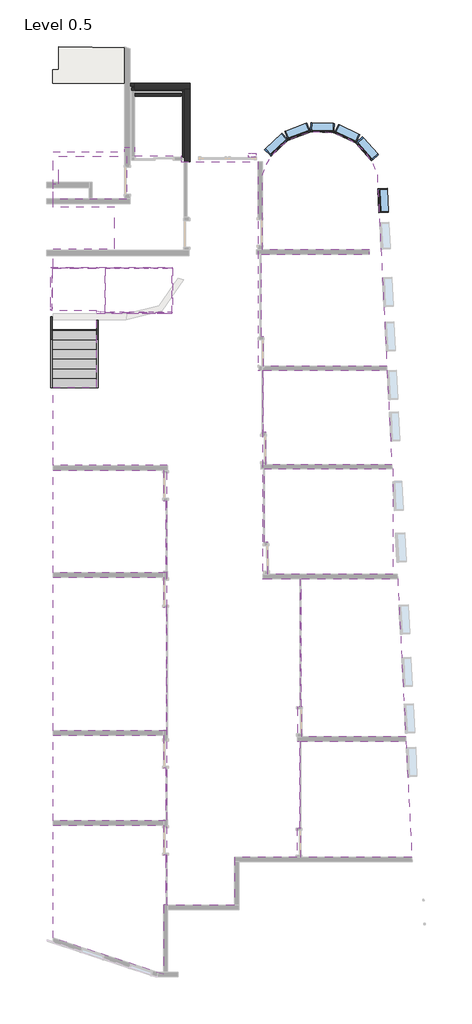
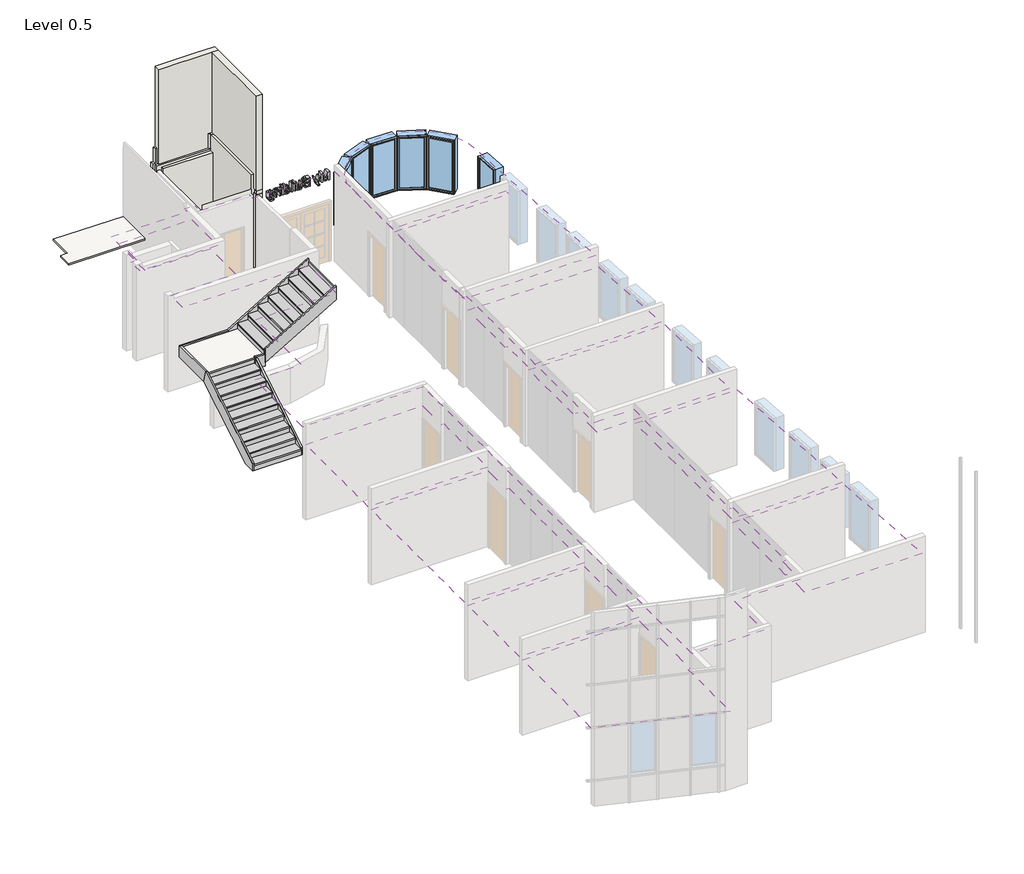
# One storey, part 3 of 3: 12 coverings, 7 members, 7 walls, 6 windows, 2 stair flights, 1 proxy, 1 slab.
"""IFC4 building model written with IfcOpenShell, lengths in millimetres."""

from ifc_helpers import new_model, si_unit, point, frame, frame_2d, origin, place, context, project, spatial, polyline, circle_curve, trimmed, segment, composite_curve, outline, extrude, faceted_brep, transform, mapped, element, save
from components import non_monolithic_landing_83515922, stair_flight_50mm_tread_13mm_riser_608741db, stair_flight_50mm_tread_13mm_riser_33096dec, m_fixed_0815_x_1830mm_2_6a11e188

model = new_model("IFC4")

# Units and contexts
model_context = context("Model", 3, world=origin())
ifc_project = project(units=[si_unit("LENGTHUNIT", "METRE", prefix="MILLI")], contexts=[model_context])

# Site, building, storey
site = spatial("IfcSite", under=ifc_project)
building = spatial("IfcBuilding", under=site)
storey = spatial("IfcBuildingStorey", under=building, Name="Level 0.5", Elevation=1200.0)

# Proxy
placement = place(None, origin())
element("IfcBuildingElementProxy", 1, Name="600mm Arial", ObjectType="600mm Arial", at=placement, inside=storey, context=model_context, shape_type="SweptSolid", body=[
    extrude(outline(polyline([(3936.3821281, 6936.0954864), (4220.4063705, 6936.0954864), (4220.4063705, 6875.0053112), (4020.2164321, 6816.8968359), (3978.4032929, 6805.1780622), (4023.6835249, 6792.4885025), (4220.4063705, 6735.3508131), (4220.4063705, 6674.2606379), (3936.3821281, 6674.2606379), (3936.3821281, 6709.7636682), (4184.9033402, 6709.7636682), (3936.3821281, 6781.1164381), (3936.3821281, 6829.2396862), (4184.9033402, 6900.5924561), (3936.3821281, 6900.5924561), (3936.3821281, 6936.0954864)])), frame((0.0, 10131.7405588, 0.0), z_axis=(0.0, 1.0, 0.0), x_axis=(0.0, 0.0, 1.0)), (0.0, 0.0, 1.0), 150.0),
    extrude(outline(polyline([(3856.5003099, 6616.5682137), (3890.685845, 6621.0060925), (3887.5654614, 6602.9772099), (3891.4832763, 6586.1271389), (3902.4046186, 6575.7952023), (3928.5464984, 6566.0873425), (3937.1448885, 6563.3136682), (4144.9624311, 6638.7576076), (4144.9624311, 6601.3130054), (4029.1615315, 6561.3027544), (3982.8411717, 6547.3650413), (4023.7528667, 6533.4273283), (4144.9624311, 6492.3076076), (4144.9624311, 6455.1403728), (3931.3895145, 6527.7412961), (3885.0691546, 6546.6022809), (3870.2820038, 6556.2581344), (3860.0367446, 6567.1968122), (3854.0560095, 6579.9037073), (3852.0624311, 6594.8642128), (3856.5003099, 6616.5682137)])), frame((0.0, 10131.7405588, 0.0), z_axis=(0.0, 1.0, 0.0), x_axis=(0.0, 0.0, 1.0)), (0.0, 0.0, 1.0), 150.0),
    extrude(outline(polyline([(3936.3821281, 6310.3545773), (4220.4063705, 6310.3545773), (4220.4063705, 6201.9732563), (4218.3174471, 6172.1649259), (4212.0506769, 6148.8920655), (4201.4500406, 6131.053873), (4186.3595192, 6117.5495466), (4168.608004, 6109.0465015), (4150.0243866, 6106.2121531), (4132.9229514, 6108.5957794), (4116.8443085, 6115.7466583), (4102.7765795, 6127.7167962), (4091.7078857, 6144.5581995), (4081.2025945, 6124.4403935), (4065.2192967, 6109.5752331), (4044.8154555, 6100.3961049), (4021.0485344, 6097.3363955), (4001.2427667, 6099.4253189), (3982.8758426, 6105.6920892), (3967.2565895, 6115.044572), (3955.693835, 6126.3906332), (3947.3208059, 6140.2850076), (3941.270729, 6157.2824301), (3936.3821281, 6202.8053586), (3936.3821281, 6310.3545773)]), holes=[polyline([(4105.021522, 6274.851547), (4105.021522, 6210.0169116), (4108.0725637, 6172.1562582), (4113.333877, 6158.903296), (4121.2128454, 6149.3774585), (4131.5881206, 6143.6307522), (4144.3383544, 6141.7151834), (4156.7158757, 6143.5007362), (4167.4985344, 6148.8573946), (4175.9149021, 6157.542462), (4181.1935509, 6169.3132421), (4184.9033402, 6214.9401834), (4184.9033402, 6274.851547), (4105.021522, 6274.851547)]), polyline([(3971.8851584, 6274.851547), (3971.8851584, 6202.0425982), (3973.2719955, 6175.6926929), (3981.0036125, 6153.3992861), (3996.7788847, 6138.6294708), (4007.9255881, 6134.2869371), (4020.7018251, 6132.8394258), (4035.5409823, 6134.5383013), (4048.2998838, 6139.6349277), (4058.2764433, 6148.5366885), (4064.7685746, 6161.650967), (4069.5184917, 6205.509691), (4069.5184917, 6274.851547), (3971.8851584, 6274.851547)])]), frame((0.0, 10131.7405588, 0.0), z_axis=(0.0, 1.0, 0.0), x_axis=(0.0, 0.0, 1.0)), (0.0, 0.0, 1.0), 150.0),
    extrude(outline(polyline([(3936.3821281, 5919.821244), (3972.2318677, 5919.821244), (3954.6060346, 5932.6668228), (3942.0161539, 5947.6273283), (3934.4622255, 5964.7027603), (3931.9442493, 5983.893119), (3933.7124666, 6001.1852444), (3939.0171186, 6017.2812227), (3946.9914321, 6030.7855492), (3956.7686338, 6040.3027189), (3982.9105135, 6050.877352), (4015.917237, 6052.9576076), (4144.9624311, 6052.9576076), (4144.9624311, 6017.4545773), (4032.6286243, 6017.4545773), (3996.4321754, 6015.3049798), (3984.3580248, 6010.1303438), (3975.1788966, 6001.2632539), (3969.3801839, 5989.293116), (3967.4472796, 5974.8093359), (3969.4235225, 5959.4934534), (3975.3522512, 5945.1656924), (3984.6873986, 5933.3515737), (3996.8828975, 5925.5766181), (4013.5856171, 5921.2600875), (4036.4424264, 5919.821244), (4144.9624311, 5919.821244), (4144.9624311, 5884.3182137), (3936.3821281, 5884.3182137), (3936.3821281, 5919.821244)])), frame((0.0, 10131.7405588, 0.0), z_axis=(0.0, 1.0, 0.0), x_axis=(0.0, 0.0, 1.0)), (0.0, 0.0, 1.0), 150.0),
    extrude(outline(polyline([(5799.9985167, 10281.7405588), (5835.501547, 10281.7405588), (5835.501547, 10131.7405588), (5799.9985167, 10131.7405588), (5799.9985167, 10281.7405588)])), frame((0.0, 0.0, 4184.9033402), z_axis=(0.0, 0.0, 1.0), x_axis=(1.0, 0.0, 0.0)), (0.0, 0.0, 1.0), 35.5030303),
    extrude(outline(polyline([(5799.9985167, 10281.7405588), (5835.501547, 10281.7405588), (5835.501547, 10131.7405588), (5799.9985167, 10131.7405588), (5799.9985167, 10281.7405588)])), frame((0.0, 0.0, 3936.3821281), z_axis=(0.0, 0.0, 1.0), x_axis=(1.0, 0.0, 0.0)), (0.0, 0.0, 1.0), 208.580303),
    extrude(outline(polyline([(5711.240941, 10281.7405588), (5746.7439713, 10281.7405588), (5746.7439713, 10131.7405588), (5711.240941, 10131.7405588), (5711.240941, 10281.7405588)])), frame((0.0, 0.0, 3936.3821281), z_axis=(0.0, 0.0, 1.0), x_axis=(1.0, 0.0, 0.0)), (0.0, 0.0, 1.0), 284.0242424),
    extrude(outline(polyline([(3936.3821281, 5529.2879107), (3969.8742446, 5529.2879107), (3953.2798716, 5539.9102162), (3941.4267481, 5552.7774644), (3934.314874, 5567.8896552), (3931.9442493, 5585.2467885), (3935.3766712, 5608.1989429), (3945.6739368, 5629.2095253), (3962.1166244, 5646.9957113), (3983.9853123, 5660.2746768), (4010.3958917, 5668.5436931), (4040.464254, 5671.3000319), (4070.1599039, 5668.7603864), (4096.9778667, 5661.14145), (4119.3926217, 5648.4518903), (4135.878648, 5630.7003752), (4146.0198944, 5609.230403), (4149.4003099, 5585.3854722), (4146.9820127, 5568.0153373), (4139.727121, 5552.6561162), (4128.6064208, 5539.6371827), (4114.5906982, 5529.2879107), (4220.4063705, 5529.2879107), (4220.4063705, 5493.7848804), (3936.3821281, 5493.7848804), (3936.3821281, 5529.2879107)]), holes=[polyline([(4040.6029378, 5635.7970016), (4008.4889907, 5631.7925094), (3985.6495168, 5619.7790328), (3971.9978389, 5602.3222206), (3967.4472796, 5581.9877213), (3971.7898134, 5561.6618897), (3984.8174146, 5544.6471318), (4006.7727797, 5533.1277159), (4037.8986054, 5529.2879107), (4071.9281212, 5533.1970578), (4095.5216878, 5544.9244992), (4109.3033817, 5562.3726437), (4113.8972796, 5583.4439003), (4109.485404, 5603.9864251), (4096.2497772, 5620.8191607), (4073.5143162, 5632.0525413), (4040.6029378, 5635.7970016)])]), frame((0.0, 10131.7405588, 0.0), z_axis=(0.0, 1.0, 0.0), x_axis=(0.0, 0.0, 1.0)), (0.0, 0.0, 1.0), 150.0),
    extrude(outline(polyline([(5405.0273046, 10281.7405588), (5440.5303349, 10281.7405588), (5440.5303349, 10131.7405588), (5405.0273046, 10131.7405588), (5405.0273046, 10281.7405588)])), frame((0.0, 0.0, 3936.3821281), z_axis=(0.0, 0.0, 1.0), x_axis=(1.0, 0.0, 0.0)), (0.0, 0.0, 1.0), 208.580303),
    extrude(outline(polyline([(5405.0273046, 10281.7405588), (5440.5303349, 10281.7405588), (5440.5303349, 10131.7405588), (5405.0273046, 10131.7405588), (5405.0273046, 10281.7405588)])), frame((0.0, 0.0, 4184.9033402), z_axis=(0.0, 0.0, 1.0), x_axis=(1.0, 0.0, 0.0)), (0.0, 0.0, 1.0), 35.5030303),
    extrude(outline(polyline([(3936.3821281, 5351.7727592), (4144.9624311, 5351.7727592), (4144.9624311, 5316.2697288), (4115.8388516, 5316.2697288), (4130.5219896, 5303.9355462), (4141.0099453, 5289.1223922), (4147.3027188, 5271.8302668), (4149.4003099, 5252.0591701), (4147.7101022, 5234.5590192), (4142.639479, 5218.5323827), (4134.8211847, 5205.16674), (4124.8879638, 5195.6495702), (4098.780755, 5185.0055953), (4064.4565362, 5183.1333652), (3936.3821281, 5183.1333652), (3936.3821281, 5218.6363955), (4059.6719482, 5218.6363955), (4091.083809, 5222.727565), (4100.4362918, 5228.387594), (4107.6911835, 5237.185342), (4112.3457556, 5248.4620614), (4113.8972796, 5261.5590044), (4110.4128513, 5282.3528935), (4099.9595665, 5300.0784055), (4091.4261844, 5307.1621094), (4079.763751, 5312.221898), (4047.0517304, 5316.2697288), (3936.3821281, 5316.2697288), (3936.3821281, 5351.7727592)])), frame((0.0, 10131.7405588, 0.0), z_axis=(0.0, 1.0, 0.0), x_axis=(0.0, 0.0, 1.0)), (0.0, 0.0, 1.0), 150.0),
    extrude(outline(polyline([(3918.6306129, 5143.1924561), (3914.1927342, 5107.6894258), (3903.0980372, 5103.771611), (3895.470433, 5096.1786777), (3889.5417043, 5081.2528432), (3887.5654614, 5061.7157753), (3889.8017363, 5040.8785475), (3896.5105609, 5025.3806427), (3907.2585486, 5014.632655), (3921.6123128, 5008.0451787), (3963.0094008, 5005.6182137), (3951.359969, 5017.4323324), (3943.0389463, 5030.6159528), (3938.0463326, 5045.1690748), (3936.3821281, 5061.0916985), (3938.3193662, 5080.5572577), (3944.1310805, 5097.6955308), (3953.817271, 5112.5065179), (3967.3779378, 5124.9902189), (3983.6472707, 5134.8952697), (4001.45946, 5141.9703059), (4041.7124075, 5147.6303349), (4070.3765972, 5145.0906894), (4096.7351702, 5137.471753), (4119.0719156, 5125.0422253), (4135.6706224, 5108.070806), (4145.967888, 5087.1382332), (4149.4003099, 5062.8252449), (4147.4587379, 5046.2222043), (4141.634022, 5031.1533522), (4131.9261622, 5017.6186887), (4118.3351584, 5005.6182137), (4144.9624311, 5005.6182137), (4144.9624311, 4970.1151834), (3964.8816309, 4970.1151834), (3923.3025205, 4972.5421484), (3895.9211551, 4979.8230432), (3877.7622565, 4992.3652515), (3863.8505467, 5010.5761564), (3855.00946, 5034.0570424), (3852.0624311, 5062.4091938), (3856.2142748, 5095.4419205), (3868.6698057, 5121.4537842), (3878.0201216, 5131.2504883), (3889.4636947, 5138.1391684), (3903.0005252, 5142.1198243), (3918.6306129, 5143.1924561)]), holes=[polyline([(4044.1393724, 5112.1273046), (4011.5747033, 5108.3395057), (3989.1859515, 5096.9761091), (3976.2103567, 5079.8920093), (3971.8851584, 5058.942101), (3976.1843535, 5038.1482119), (3989.0819387, 5020.9774348), (4011.1846553, 5009.458019), (4043.0992446, 5005.6182137), (4073.8783609, 5009.5706995), (4096.0417517, 5021.4281569), (4109.4333976, 5038.8502982), (4113.8972796, 5059.4968359), (4109.5027395, 5079.770661), (4096.3191191, 5096.7680835), (4074.4851022, 5108.2874993), (4044.1393724, 5112.1273046)])]), frame((0.0, 10131.7405588, 0.0), z_axis=(0.0, 1.0, 0.0), x_axis=(0.0, 0.0, 1.0)), (0.0, 0.0, 1.0), 150.0),
])

# Coverings
element("IfcCovering", 2, ObjectType="600 x 600mm Grid", at=placement, inside=storey, context=model_context, shape_type="SweptSolid", body=[
    extrude(outline(polyline([(7197.8570765, 2807.3506855), (11447.9270018, 2807.3506855), (11612.8107888, -430.9502585), (7272.8570765, -443.3366135), (7272.8570765, 681.4490289), (7197.8570765, 681.4490289), (7197.8570765, 1802.2893787), (7197.8570765, 2807.3506855)])), frame((0.0, 0.0, 3800.0), z_axis=(0.0, 0.0, 1.0), x_axis=(1.0, 0.0, 0.0)), (0.0, 0.0, 1.0), 52.0),
])
element("IfcCovering", 3, ObjectType="600 x 600mm Grid", at=placement, inside=storey, context=model_context, shape_type="SweptSolid", body=[
    extrude(outline(composite_curve([segment(polyline([(7150.5392732, 6948.450989), (7150.5392732, 9509.6119752)]), True, "CONTINUOUS"), segment(trimmed(circle_curve(frame_2d((9131.2105116, 8980.9897456)), 2050.0000039), [point((7150.5392732, 9509.6119752))], [point((11105.4759403, 9533.0549888))], False, "CARTESIAN"), True, "CONTINUOUS"), segment(polyline([(11105.4759403, 9533.0549888), (11440.2894881, 2957.3506855), (7185.1048556, 2957.3506855), (7185.1048556, 3970.7828627), (7130.5392732, 3970.7828627), (7130.5392732, 5170.7828627), (7130.5392732, 6170.7828627), (7130.5392732, 6798.4082432), (10838.0678893, 6806.2697987), (10837.7498255, 6956.2694615), (7150.5392732, 6948.450989)]), True, "CONTINUOUS")], self_intersect=False)), frame((0.0, 0.0, 4100.0), z_axis=(0.0, 0.0, 1.0), x_axis=(1.0, 0.0, 0.0)), (0.0, 0.0, 1.0), 52.0),
])
element("IfcCovering", 4, ObjectType="600 x 600mm Grid", at=placement, inside=storey, context=model_context, shape_type="SweptSolid", body=[
    extrude(outline(polyline([(-50.0000039, -4153.7038617), (-50.0000039, -617.1675364), (3749.6376114, -617.1675364), (3749.6376114, -1677.1675364), (3824.6376114, -1677.1675364), (3824.6376114, -2977.1675364), (3824.6376114, -4153.7038617), (-50.0000039, -4153.7038617)])), frame((0.0, 0.0, 3800.0), z_axis=(0.0, 0.0, 1.0), x_axis=(1.0, 0.0, 0.0)), (0.0, 0.0, 1.0), 52.0),
])
element("IfcCovering", 5, ObjectType="600 x 600mm Grid", at=placement, inside=storey, context=model_context, shape_type="SweptSolid", body=[
    extrude(outline(polyline([(-50.0000039, -9587.5773389), (-50.0000039, -4303.7038617), (3749.6376114, -4303.7038617), (3749.6376114, -5337.1675364), (3834.6376114, -5337.1675364), (3834.6376114, -6537.1675364), (3834.6376114, -7737.1675364), (3834.6376114, -8940.5298497), (3834.6376114, -9587.5773389), (-50.0000039, -9587.5773389)])), frame((0.0, 0.0, 3800.0), z_axis=(0.0, 0.0, 1.0), x_axis=(1.0, 0.0, 0.0)), (0.0, 0.0, 1.0), 52.0),
])
element("IfcCovering", 6, ObjectType="600 x 600mm Grid", at=placement, inside=storey, context=model_context, shape_type="SweptSolid", body=[
    extrude(outline(polyline([(-50.0000039, -12673.8791407), (-50.0000039, -9737.5773389), (3749.6376114, -9737.5773389), (3749.6376114, -10857.1675364), (3824.6376114, -10857.1675364), (3824.6376114, -11957.1675364), (3824.6376114, -12673.8791407), (-50.0000039, -12673.8791407)])), frame((0.0, 0.0, 3800.0), z_axis=(0.0, 0.0, 1.0), x_axis=(1.0, 0.0, 0.0)), (0.0, 0.0, 1.0), 52.0),
])
element("IfcCovering", 7, ObjectType="600 x 600mm Grid", at=placement, inside=storey, context=model_context, shape_type="SweptSolid", body=[
    extrude(outline(polyline([(3749.6376114, -17955.9098314), (-50.0000039, -16704.4650439), (-50.0000039, -12823.8791407), (3749.6376114, -12823.8791407), (3749.6376114, -13837.1675364), (3824.6376114, -13837.1675364), (3824.6376114, -14737.1675364), (3824.6376114, -15557.1675364), (3749.6376114, -15557.1675364), (3749.6376114, -17955.9098314)])), frame((0.0, 0.0, 3800.0), z_axis=(0.0, 0.0, 1.0), x_axis=(1.0, 0.0, 0.0)), (0.0, 0.0, 1.0), 52.0),
])
element("IfcCovering", 8, ObjectType="600 x 600mm Grid", at=placement, inside=storey, context=model_context, shape_type="SweptSolid", body=[
    extrude(outline(polyline([(12096.9851954, -9940.0867626), (12300.5219419, -13937.5279318), (8489.4667664, -13937.5279318), (8489.4667664, -12940.0867626), (8439.9667664, -12940.0867626), (8439.9667664, -11440.0867626), (8439.9667664, -9940.0867626), (12096.9851954, -9940.0867626)])), frame((0.0, 0.0, 3800.0), z_axis=(0.0, 0.0, 1.0), x_axis=(1.0, 0.0, 0.0)), (0.0, 0.0, 1.0), 52.0),
])
element("IfcCovering", 9, ObjectType="600 x 600mm Grid", at=placement, inside=storey, context=model_context, shape_type="SweptSolid", body=[
    extrude(outline(polyline([(8499.9667664, -4355.3047697), (11812.6261996, -4355.3047697), (12089.3476816, -9790.0867626), (8510.4667664, -9790.0867626), (8510.4667664, -8765.0867626), (8499.9667664, -8765.0867626), (8499.9667664, -6665.0867626), (8499.9667664, -5065.0867626), (8499.9667664, -4355.3047697)])), frame((0.0, 0.0, 3800.0), z_axis=(0.0, 0.0, 1.0), x_axis=(1.0, 0.0, 0.0)), (0.0, 0.0, 1.0), 52.0),
])
element("IfcCovering", 10, ObjectType="600 x 600mm Grid", at=placement, inside=storey, context=model_context, shape_type="SweptSolid", body=[
    extrude(outline(polyline([(7220.447224, -580.9290748), (11652.553, -580.9290748), (11652.553, -4207.2928434), (7352.553, -4207.2928434), (7352.553, -3107.2928434), (7220.447224, -3107.2928434), (7220.447224, -580.9290748)])), frame((0.0, 0.0, 3800.0), z_axis=(0.0, 0.0, 1.0), x_axis=(1.0, 0.0, 0.0)), (0.0, 0.0, 1.0), 52.0),
])
element("IfcCovering", 11, ObjectType="600 x 600mm Grid", at=placement, inside=storey, context=model_context, shape_type="SweptSolid", body=[
    extrude(outline(polyline([(3899.6376114, -15557.1675364), (3874.1376114, -15557.1675364), (3874.1376114, -457.1675364), (-25.8623886, -457.1675364), (-50.0000039, -457.1675364), (-50.0000039, 2226.9438392), (1447.7916679, 2226.9438392), (1447.7916679, 4776.9438392), (4055.0000043, 4776.9438392), (4055.0000043, 6311.9438364), (-44.9999957, 6311.9438364), (-44.9999957, 6991.9438364), (2075.0000043, 6991.9438364), (2075.0000043, 8411.9438364), (-50.0000039, 8411.9438364), (-50.0000039, 10328.8506586), (2419.6668671, 10328.8506586), (2419.6668671, 10481.5722364), (2749.6769958, 10481.5722364), (2749.6769958, 10181.5722364), (4349.6769958, 10181.5722364), (4349.6769958, 10031.9436225), (4349.6769958, 9981.7405588), (7000.5392732, 9981.7405588), (7000.5392732, 2807.3506855), (7158.4858397, 2807.3506855), (7158.4858397, -4355.3047697), (8450.4667664, -4355.3047697), (8450.4667664, -8765.0867626), (8360.4667664, -8765.0867626), (8360.4667664, -9940.0867626), (8450.4667664, -9940.0867626), (8450.4667664, -12935.3047697), (8339.4667664, -12935.3047697), (8339.4667664, -13937.5279318), (6199.6376114, -13937.5279318), (6199.6376114, -15587.5279318), (3899.6376114, -15587.5279318), (3899.6376114, -15557.1675364)])), frame((0.0, 0.0, 4300.0), z_axis=(0.0, 0.0, 1.0), x_axis=(1.0, 0.0, 0.0)), (0.0, 0.0, 1.0), 52.0),
])
element("IfcCovering", 12, ObjectType="600 x 600mm Grid", at=placement, inside=storey, context=model_context, shape_type="SweptSolid", body=[
    extrude(outline(polyline([(2481.8607589, 10179.4957281), (2481.8607589, 8696.8748746), (-50.0421304, 8696.8748746), (-50.0421304, 9219.4957281), (149.9709975, 9219.4957281), (149.9709975, 10179.4957281), (2481.8607589, 10179.4957281)])), frame((0.0, 0.0, 4100.0), z_axis=(0.0, 0.0, 1.0), x_axis=(1.0, 0.0, 0.0)), (0.0, 0.0, 1.0), 52.0),
])
element("IfcCovering", 13, ObjectType="600 x 600mm Grid", at=placement, inside=storey, context=model_context, shape_type="SweptSolid", body=[
    extrude(outline(polyline([(2454.9743495, 12688.8107611), (-60.0421304, 12688.8107611), (-60.0421304, 13143.419171), (149.9709975, 13143.419171), (149.9709975, 13943.419171), (2454.9743495, 13908.8107611), (2454.9743495, 12688.8107611)])), frame((0.0, 0.0, 1900.0), z_axis=(0.0, 0.0, 1.0), x_axis=(1.0, 0.0, 0.0)), (0.0, 0.0, 1.0), 52.0),
])

# Members
element("IfcMember", 14, ObjectType="Stringer - 50mm Width", at=placement, inside=storey, context=model_context, shape_type="SweptSolid", body=[
    extrude(outline(polyline([(2211.9438392, 1200.0), (2211.9438392, 1432.6923959), (4871.3667661, 2997.0588235), (4980.290083, 2597.0588235), (2605.290083, 1200.0), (2211.9438392, 1200.0)])), frame((-129.9999959, 0.0, 0.0), z_axis=(1.0, 0.0, 0.0), x_axis=(0.0, 1.0, 0.0)), (0.0, 0.0, 1.0), 50.0),
])
element("IfcMember", 15, ObjectType="Stringer - 50mm Width", at=placement, inside=storey, context=model_context, shape_type="Brep", body=[
    faceted_brep([(1497.7916679, 2211.9438392, 1200.0), (1447.7916679, 2211.9438392, 1200.0), (1447.7916679, 2605.290083, 1200.0), (1497.7916679, 2605.290083, 1200.0), (1497.7916679, 2211.9438392, 1432.6923959), (1447.7916679, 2211.9438392, 1432.6923959), (1497.7916679, 4794.7637525, 2951.9982273), (1447.7916679, 4801.4930385, 2955.9566308), (1447.7916679, 4801.4930385, 2491.8840915), (1497.7916679, 4794.7637525, 2487.9256879)], [[[0, 1, 2, 3]], [[4, 5, 1, 0]], [[5, 4, 6, 7]], [[1, 5, 7, 8, 2]], [[4, 0, 3, 9, 6]], [[2, 8, 9, 3]], [[6, 9, 8, 7]]]),
])
element("IfcMember", 16, ObjectType="Stringer - 50mm Width", at=placement, inside=storey, context=model_context, shape_type="SweptSolid", body=[
    extrude(outline(polyline([(2997.0588235, 1434.4229312), (2597.0588235, 1543.3462481), (4074.5022095, 4055.0000043), (4538.5747489, 4055.0000043), (2997.0588235, 1434.4229312)])), frame((0.0, 6311.9438364, 0.0), z_axis=(0.0, 1.0, 0.0), x_axis=(0.0, 0.0, 1.0)), (0.0, 0.0, 1.0), 50.0),
])
element("IfcMember", 17, ObjectType="Stringer - 50mm Width", at=placement, inside=storey, context=model_context, shape_type="SweptSolid", body=[
    extrude(outline(polyline([(3179.7512195, 1745.0000043), (2715.6786801, 1745.0000043), (4074.5022095, 4055.0000043), (4538.5747489, 4055.0000043), (3179.7512195, 1745.0000043)])), frame((0.0, 4761.9438414, 0.0), z_axis=(0.0, 1.0, 0.0), x_axis=(0.0, 0.0, 1.0)), (0.0, 0.0, 1.0), 50.0),
])
element("IfcMember", 18, ObjectType="Stringer - 50mm Width", at=placement, inside=storey, context=model_context, shape_type="Brep", body=[
    faceted_brep([(1434.4229312, 6311.9438364, 2997.0588235), (1434.4229312, 6361.9438364, 2997.0588235), (-129.9999959, 6361.9438364, 2997.0588235), (-79.9999959, 6311.9438364, 2997.0588235), (1543.3462481, 6311.9438364, 2597.0588235), (-79.9999959, 6311.9438364, 2597.0588235), (1543.3462481, 6361.9438364, 2597.0588235), (-129.9999959, 6361.9438364, 2597.0588235)], [[[0, 1, 2, 3]], [[4, 0, 3, 5]], [[6, 4, 5, 7]], [[1, 6, 7, 2]], [[1, 0, 4, 6]], [[2, 7, 5, 3]]]),
])
element("IfcMember", 19, ObjectType="Stringer - 50mm Width", at=placement, inside=storey, context=model_context, shape_type="Brep", body=[
    faceted_brep([(-79.9999959, 6311.9438364, 2997.0588235), (-129.9999959, 6361.9438364, 2997.0588235), (-129.9999959, 4871.3667661, 2997.0588235), (-79.9999959, 4871.3667661, 2997.0588235), (-79.9999959, 6311.9438364, 2597.0588235), (-79.9999959, 4980.290083, 2597.0588235), (-129.9999959, 6361.9438364, 2597.0588235), (-129.9999959, 4980.290083, 2597.0588235)], [[[0, 1, 2, 3]], [[4, 0, 3, 5]], [[6, 4, 5, 7]], [[1, 6, 7, 2]], [[1, 0, 4, 6]], [[2, 7, 5, 3]]]),
])
element("IfcMember", 20, ObjectType="Stringer - 50mm Width", at=placement, inside=storey, context=model_context, shape_type="SweptSolid", body=[
    extrude(outline(polyline([(1447.7916679, 4801.4930385), (1447.7916679, 4851.9438392), (1745.0000043, 4811.9438414), (1745.0000043, 4761.4930407), (1447.7916679, 4801.4930385)])), frame((0.0, 0.0, 2597.0588235), z_axis=(0.0, 0.0, 1.0), x_axis=(1.0, 0.0, 0.0)), (0.0, 0.0, 1.0), 400.0),
])

# Slab
non_monolithic_landing_shape = non_monolithic_landing_83515922(model_context)
element("IfcSlab", 21, ObjectType="Non-Monolithic Landing", at=placement, inside=storey, context=model_context, shape_type="MappedRepresentation", body=[
    mapped(non_monolithic_landing_shape, transform((0.0, 0.0, 0.0), x_axis=(1.0, 0.0, 0.0), y_axis=(0.0, 1.0, 0.0), z_axis=(0.0, 0.0, 1.0))),
])

# Stair flights
stair_flight_50mm_tread_13mm_riser_shape = stair_flight_50mm_tread_13mm_riser_608741db(model_context)
element("IfcStairFlight", 22, ObjectType="50mm Tread 13mm Riser", at=placement, inside=storey, context=model_context, shape_type="MappedRepresentation", body=[
    mapped(stair_flight_50mm_tread_13mm_riser_shape, transform((0.0, 0.0, 0.0), x_axis=(1.0, 0.0, 0.0), y_axis=(0.0, 1.0, 0.0), z_axis=(0.0, 0.0, 1.0))),
])
stair_flight_50mm_tread_13mm_riser_2_shape = stair_flight_50mm_tread_13mm_riser_33096dec(model_context)
element("IfcStairFlight", 23, ObjectType="50mm Tread 13mm Riser", at=placement, inside=storey, context=model_context, shape_type="MappedRepresentation", body=[
    mapped(stair_flight_50mm_tread_13mm_riser_2_shape, transform((0.0, 0.0, 0.0), x_axis=(1.0, 0.0, 0.0), y_axis=(0.0, 1.0, 0.0), z_axis=(0.0, 0.0, 1.0))),
])

# Walls
element("IfcWall", 24, ObjectType="Generic - 10cm-gypsu-2boith", at=placement, inside=storey, context=model_context, shape_type="Brep", body=[
    faceted_brep([(4399.6302337, 12428.1995427, 5000.0), (4399.6302337, 12428.1995427, 1200.0), (4399.6302337, 10131.9436225, 1200.0), (4399.6302337, 10131.7405588, 1200.0), (4399.6302337, 10131.7405588, 4350.0), (4399.6302337, 10131.7405588, 4500.0), (4399.6302337, 10131.7405588, 5000.0), (4499.6302337, 12328.1995427, 1200.0), (4499.6302337, 12328.1995427, 5000.0), (4499.6302337, 10131.7405588, 5000.0), (4499.6302337, 10131.7405588, 1200.0), (4499.6302337, 11608.4756141, 1200.0), (4470.0008952, 12357.8288812, 1200.0), (4470.0008952, 12357.8288812, 5000.0)], [[[0, 1, 2, 3, 4, 5, 6]], [[7, 8, 9, 10, 11]], [[3, 2, 1, 12, 7, 11, 10]], [[0, 6, 9, 8, 13]], [[3, 10, 9, 6, 5, 4]], [[0, 13, 8, 7, 12, 1]]]),
])
element("IfcWall", 25, ObjectType="Generic - 10cm-gypsu-2boith", at=placement, inside=storey, context=model_context, shape_type="SweptSolid", body=[
    extrude(outline(polyline([(2749.6769958, 12331.9436225), (4349.6770254, 12331.9436225), (4349.6770254, 12231.9436225), (2749.6769958, 12231.9436225), (2749.6769958, 12331.9436225)])), frame((0.0, 0.0, 1200.0), z_axis=(0.0, 0.0, 1.0), x_axis=(1.0, 0.0, 0.0)), (0.0, 0.0, 1.0), 3300.0),
])
element("IfcWall", 26, ObjectType="Generic - 10cm-gypsu-2boith", at=placement, inside=storey, context=model_context, shape_type="Brep", body=[
    faceted_brep([(4295.8861539, 12531.9436225, 1200.0), (2649.6769958, 12531.9436225, 1200.0), (2649.6769958, 12531.9436225, 4500.0), (4295.8861539, 12531.9436225, 4500.0), (4395.8861539, 12431.9436225, 1200.0), (4395.8861539, 12431.9436225, 4500.0), (2749.6769958, 12431.9436225, 4500.0), (2649.6769958, 12431.9436225, 4500.0), (2649.6769958, 12431.9436225, 1200.0), (2749.6769958, 12431.9436225, 1200.0)], [[[0, 1, 2, 3]], [[4, 5, 6, 7, 8, 9]], [[1, 0, 4, 9, 8]], [[3, 2, 7, 6, 5]], [[0, 3, 5, 4]], [[2, 1, 8, 7]]]),
])
element("IfcWall", 27, ObjectType="Generic - 10cm-gypsu-2boith", at=placement, inside=storey, context=model_context, shape_type="Brep", body=[
    faceted_brep([(4287.3075102, 12681.9436225, 1200.0), (2599.6668671, 12681.9436225, 1200.0), (2599.6668671, 12681.9436225, 4500.0), (2680.9917149, 12681.9436225, 4500.0), (2680.9917149, 12681.9436225, 5000.0), (4287.3075102, 12681.9436225, 5000.0), (4387.3075102, 12581.9436225, 1200.0), (4387.3075102, 12581.9436225, 5000.0), (4245.8861539, 12581.9436225, 5000.0), (2680.9917149, 12581.9436225, 5000.0), (2680.9917149, 12581.9436225, 4500.0), (2599.6668671, 12581.9436225, 4500.0), (2599.6668671, 12581.9436225, 1200.0), (4245.8861539, 12581.9436225, 1200.0)], [[[0, 1, 2, 3, 4, 5]], [[6, 7, 8, 9, 10, 11, 12, 13]], [[1, 0, 6, 13, 12]], [[5, 4, 9, 8, 7]], [[0, 5, 7, 6]], [[10, 3, 2, 11]], [[2, 1, 12, 11]], [[4, 3, 10, 9]]]),
])
element("IfcWall", 28, ObjectType="Generic - 10cm-gypsu-2boith", at=placement, inside=storey, context=model_context, shape_type="Brep", body=[
    faceted_brep([(4470.0008952, 12499.2502374, 1200.0), (4387.3075102, 12581.9436225, 1200.0), (4387.3075102, 12581.9436225, 5000.0), (4470.0008952, 12499.2502374, 5000.0), (4470.0008952, 12357.8288812, 1200.0), (4470.0008952, 12357.8288812, 5000.0), (4399.6302337, 12428.1995427, 5000.0), (4245.8861539, 12581.9436225, 5000.0), (4245.8861539, 12581.9436225, 1200.0), (4295.8861539, 12531.9436225, 1200.0), (4395.8861539, 12431.9436225, 1200.0), (4399.6302337, 12428.1995427, 1200.0), (4470.0008952, 12481.9409286, 1200.0)], [[[0, 1, 2, 3]], [[4, 5, 6, 7, 8, 9, 10, 11]], [[1, 0, 12, 4, 11, 10, 9, 8]], [[3, 2, 7, 6, 5]], [[2, 1, 8, 7]], [[0, 3, 5, 4, 12]]]),
])
element("IfcWall", 29, ObjectType="Generic - 20cm-granit", at=placement, inside=storey, context=model_context, shape_type="Brep", body=[
    faceted_brep([(2749.6769958, 12481.9409286, 1200.0), (4470.0008952, 12481.9409286, 1200.0), (4670.0008952, 12481.9409286, 1200.0), (4670.0008952, 12481.9409286, 7759.0), (4470.0008952, 12481.9409286, 7759.0), (2749.6769958, 12481.9409286, 7759.0), (2749.6769958, 12481.9409286, 4500.0), (4470.0008952, 12481.9409286, 4500.0), (4500.0008952, 12481.9409286, 4500.0), (4500.0008952, 12481.9409286, 4350.0), (4470.0008952, 12481.9409286, 4350.0), (2749.6769958, 12481.9409286, 4350.0), (4670.0008952, 12681.9409286, 1200.0), (2749.6769958, 12681.9409286, 1200.0), (2749.6769958, 12681.9409286, 4350.0), (3960.156273, 12681.9409286, 4350.0), (3960.156273, 12681.9409286, 4500.0), (2749.6769958, 12681.9409286, 4500.0), (2749.6769958, 12681.9409286, 7759.0), (3860.156273, 12681.9409286, 7759.0), (4060.156273, 12681.9409286, 7759.0), (4670.0008952, 12681.9409286, 7759.0), (4500.0008952, 12511.9409286, 4350.0), (3960.156273, 12511.9409286, 4350.0), (3960.156273, 12511.9409286, 4500.0), (4500.0008952, 12511.9409286, 4500.0)], [[[0, 1, 2, 3, 4, 5, 6, 7, 8, 9, 10, 11]], [[12, 13, 14, 15, 16, 17, 18, 19, 20, 21]], [[2, 1, 0, 13, 12]], [[3, 2, 12, 21]], [[22, 23, 15, 14, 11, 10, 9]], [[24, 25, 8, 7, 6, 17, 16]], [[23, 24, 16, 15]], [[23, 22, 25, 24]], [[25, 22, 9, 8]], [[13, 0, 11, 14]], [[5, 18, 17, 6]], [[5, 4, 3, 21, 20, 19, 18]]]),
])
element("IfcWall", 30, ObjectType="Generic - 20cm-granit", at=placement, inside=storey, context=model_context, shape_type="Brep", body=[
    faceted_brep([(4470.0008952, 12481.9409286, 1200.0), (4470.0008952, 12357.8288812, 1200.0), (4470.0008952, 9981.7405588, 1200.0), (4470.0008952, 9981.7405588, 4350.0), (4470.0008952, 12481.9409286, 4350.0), (4470.0008952, 9981.7405588, 7759.0), (4470.0008952, 12481.9409286, 7759.0), (4470.0008952, 12481.9409286, 4500.0), (4470.0008952, 10136.9423839, 4500.0), (4470.0008952, 9981.7405588, 4500.0), (4670.0008952, 9981.7405588, 1200.0), (4670.0008952, 10131.7405588, 1200.0), (4670.0008952, 12481.9409286, 1200.0), (4670.0008952, 12481.9409286, 7759.0), (4670.0008952, 10131.7405588, 7759.0), (4670.0008952, 9981.7405588, 7759.0), (4670.0008952, 9981.7405588, 4500.0), (4670.0008952, 10001.7405588, 4500.0), (4670.0008952, 10001.7405588, 4350.0), (4670.0008952, 9981.7405588, 4350.0), (4554.958768, 9981.7405588, 1200.0), (4499.6302337, 9981.7405588, 1200.0), (4500.0008952, 12481.9409286, 4350.0), (4500.0008952, 12481.9409286, 4500.0), (4500.0008952, 10001.7405588, 4350.0), (4500.0008952, 10001.7405588, 4500.0)], [[[0, 1, 2, 3, 4]], [[5, 6, 7, 8, 9]], [[10, 11, 12, 13, 14, 15, 16, 17, 18, 19]], [[2, 1, 0, 12, 11, 10, 20, 21]], [[13, 12, 0, 4, 22, 23, 7, 6]], [[18, 24, 22, 4, 3, 19]], [[23, 25, 17, 16, 9, 8, 7]], [[24, 25, 23, 22]], [[25, 24, 18, 17]], [[6, 5, 15, 14, 13]], [[15, 5, 9, 16]], [[2, 21, 20, 10, 19, 3]]]),
])

# Windows
m_fixed_0815_x_1830mm_2_shape = m_fixed_0815_x_1830mm_2_6a11e188(model_context)
element("IfcWindow", 31, ObjectType="M_Fixed : 0815 x 1830mm 2", at=placement, inside=storey, context=model_context, shape_type="MappedRepresentation", body=[
    mapped(m_fixed_0815_x_1830mm_2_shape, transform((7632.1619119, 10574.3833019, 1795.0), x_axis=(-0.7283404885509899, -0.6852153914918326, 0.0), y_axis=(0.6852153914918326, -0.7283404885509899, 0.0), z_axis=(0.0, 0.0, 1.0))),
])
element("IfcWindow", 32, ObjectType="M_Fixed : 0815 x 1830mm 2", at=placement, inside=storey, context=model_context, shape_type="MappedRepresentation", body=[
    mapped(m_fixed_0815_x_1830mm_2_shape, transform((8360.3370879, 11028.3792772, 1795.0), x_axis=(-0.9358621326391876, -0.3523663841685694, 0.0), y_axis=(0.3523663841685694, -0.9358621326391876, 0.0), z_axis=(0.0, 0.0, 1.0))),
])
element("IfcWindow", 33, ObjectType="M_Fixed : 0815 x 1830mm 2", at=placement, inside=storey, context=model_context, shape_type="MappedRepresentation", body=[
    mapped(m_fixed_0815_x_1830mm_2_shape, transform((9221.8537356, 11166.8153415, 1795.0), x_axis=(-0.9991412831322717, 0.04143303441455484, 0.0), y_axis=(-0.04143303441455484, -0.9991412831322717, 0.0), z_axis=(0.0, 0.0, 1.0))),
])
element("IfcWindow", 34, ObjectType="M_Fixed : 0815 x 1830mm 2", at=placement, inside=storey, context=model_context, shape_type="MappedRepresentation", body=[
    mapped(m_fixed_0815_x_1830mm_2_shape, transform((10077.3989841, 10953.4950318, 1795.0), x_axis=(-0.9016325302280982, 0.4325029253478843, 0.0), y_axis=(-0.4325029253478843, -0.9016325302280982, 0.0), z_axis=(0.0, 0.0, 1.0))),
])
element("IfcWindow", 35, ObjectType="M_Fixed : 0815 x 1830mm 2", at=placement, inside=storey, context=model_context, shape_type="MappedRepresentation", body=[
    mapped(m_fixed_0815_x_1830mm_2_shape, transform((10765.875586, 10434.9222832, 1795.0), x_axis=(-0.6645928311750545, 0.7472057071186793, 0.0), y_axis=(-0.7472057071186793, -0.6645928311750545, 0.0), z_axis=(0.0, 0.0, 1.0))),
])
element("IfcWindow", 36, ObjectType="M_Fixed : 0815 x 1830mm 2", at=placement, inside=storey, context=model_context, shape_type="MappedRepresentation", body=[
    mapped(m_fixed_0815_x_1830mm_2_shape, transform((11323.5802195, 8651.6129446, 1795.0), x_axis=(-0.05085088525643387, 0.9987062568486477, 0.0), y_axis=(-0.9987062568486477, -0.05085088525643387, 0.0), z_axis=(0.0, 0.0, 1.0))),
])

save(model, "model.ifc")
